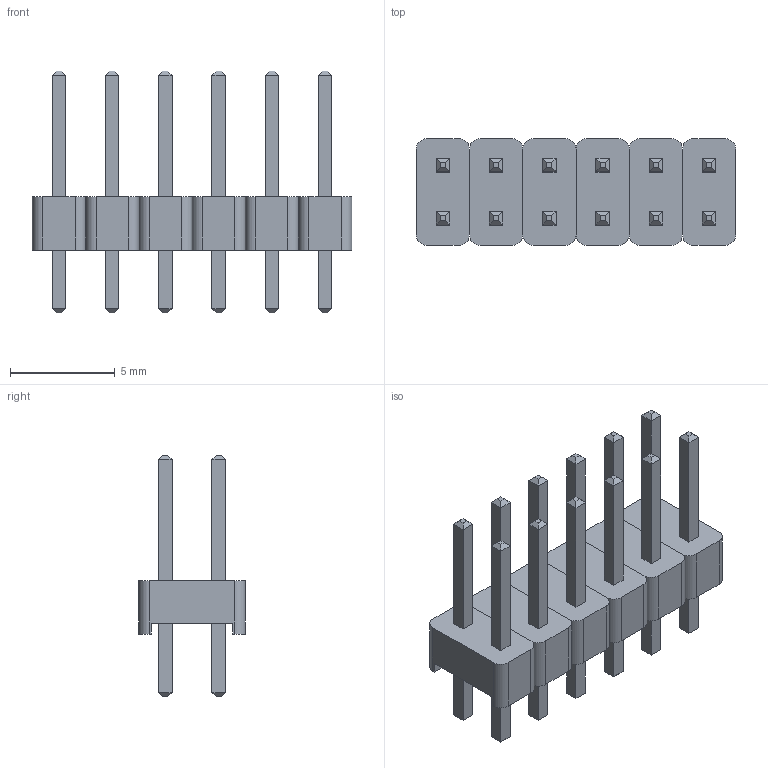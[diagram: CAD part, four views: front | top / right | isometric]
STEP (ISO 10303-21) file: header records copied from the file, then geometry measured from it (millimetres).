
FILE_DESCRIPTION(('FreeCAD Model'),'2;1');
FILE_NAME('Open CASCADE Shape Model','2022-04-06T15:55:53',( 'Engenharia Metaltex'),('Metaltex'), 'Open CASCADE STEP processor 7.5','FreeCAD','Unknown');
FILE_SCHEMA(('AUTOMOTIVE_DESIGN { 1 0 10303 214 1 1 1 1 }'));
Length unit declared in the file: millimetre
Products named in the file (25): BPDC; 1; Base; Pino1; Pino2; 2; Base001; Pino003; Pino004; 3; Base002; Pino006; Pino005; 4; Base003; Pino008; Pino007; 5; Base004; Pino009; Pino010; 6; Base005; Pino012; Pino011
Assembly tree (24 placements, depth 3):
  BPDC
    1
      Base
      Pino1
      Pino2
    2
      Base001
      Pino003
      Pino004
    3
      Base002
      Pino006
      Pino005
    4
      Base003
      Pino008
      Pino007
    5
      Base004
      Pino009
      Pino010
    6
      Base005
      Pino012
      Pino011
Bounding box: 15.24 x 5.08 x 11.54 mm (x, y, z)
Volume: 209.5 mm3; surface area: 771.8 mm2
Topology: 18 solids, 18 shells, 300 faces, 696 edges, 432 vertices
Faces by surface type: plane 276, cylinder 24
Entity records: 18019 total; most frequent: CARTESIAN_POINT 2989, DIRECTION 2762, LINE 1992, VECTOR 1992, ORIENTED_EDGE 1392, PCURVE 1392, DEFINITIONAL_REPRESENTATION 1392, EDGE_CURVE 696
